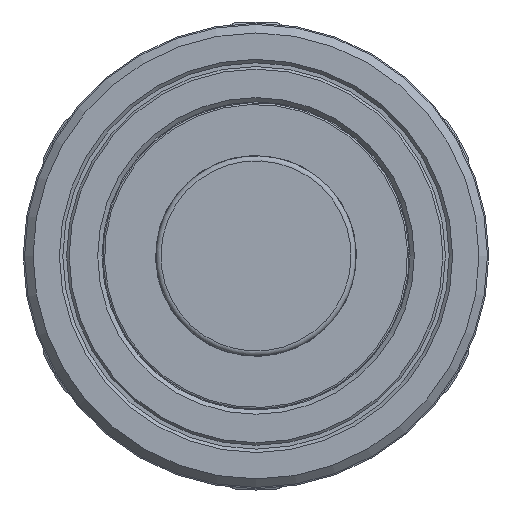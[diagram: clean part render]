
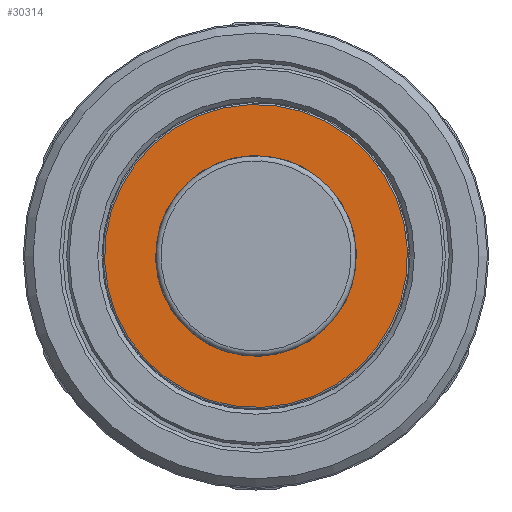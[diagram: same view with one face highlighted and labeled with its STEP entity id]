
A CAD part, left-side view. The second image highlights one B-rep face of the part: STEP entity #30314.
In plain terms, the highlighted planar face has unit normal (-1, 0, 0).
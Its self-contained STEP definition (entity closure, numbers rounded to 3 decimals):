
#94=FACE_BOUND('',#3894,.T.);
#1382=PLANE('',#31849);
#2251=FACE_OUTER_BOUND('',#3893,.T.);
#3893=EDGE_LOOP('',(#22203));
#3894=EDGE_LOOP('',(#22204));
#7361=CIRCLE('',#31847,17.8);
#7363=CIRCLE('',#31850,11.8);
#12385=VERTEX_POINT('',#47942);
#12386=VERTEX_POINT('',#47947);
#15976=EDGE_CURVE('',#12385,#12385,#7361,.T.);
#15978=EDGE_CURVE('',#12386,#12386,#7363,.T.);
#22203=ORIENTED_EDGE('',*,*,#15976,.F.);
#22204=ORIENTED_EDGE('',*,*,#15978,.T.);
#30314=ADVANCED_FACE('',(#2251,#94),#1382,.T.);
#31847=AXIS2_PLACEMENT_3D('',#47944,#34169,#34170);
#31849=AXIS2_PLACEMENT_3D('',#47946,#34173,#34174);
#31850=AXIS2_PLACEMENT_3D('',#47948,#34175,#34176);
#34169=DIRECTION('center_axis',(1.,0.,0.));
#34170=DIRECTION('ref_axis',(0.,0.218,0.976));
#34173=DIRECTION('center_axis',(-1.,0.,0.));
#34174=DIRECTION('ref_axis',(0.,-0.976,0.218));
#34175=DIRECTION('center_axis',(1.,0.,0.));
#34176=DIRECTION('ref_axis',(0.,0.218,0.976));
#47942=CARTESIAN_POINT('',(-35.3,-17.37,3.889));
#47944=CARTESIAN_POINT('Origin',(-35.3,0.,0.));
#47946=CARTESIAN_POINT('Origin',(-35.3,-3.933,-17.565));
#47947=CARTESIAN_POINT('',(-35.3,2.578,11.515));
#47948=CARTESIAN_POINT('Origin',(-35.3,0.,0.));
